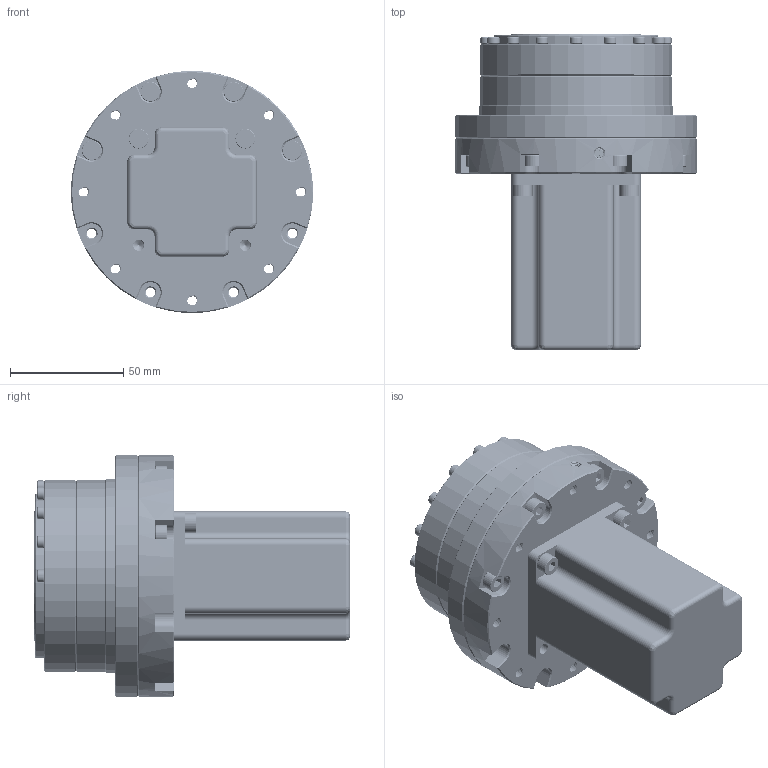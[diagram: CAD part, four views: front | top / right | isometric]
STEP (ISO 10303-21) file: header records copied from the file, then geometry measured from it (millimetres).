
FILE_DESCRIPTION(/* description */ (''),/* implementation_level */ '2;1');
FILE_NAME(/* name */ 'HBG25配57步进电机安装方案.stp',/* time_stamp */ '2022-09-21T09:41:49+08:00',/* author */ (''),/* organization */ (''),/* preprocessor_version */ 'ST-DEVELOPER v16',/* originating_system */ 'SIEMENS PLM Software NX 10.0',/* authorisation */ '');
FILE_SCHEMA (('CONFIG_CONTROL_DESIGN'));
Products named in the file (1): HBG25配57步进电机安装方案
Bounding box: 107 x 139.82 x 107 mm (x, y, z)
Volume: 407441.9 mm3; surface area: 175663.6 mm2
Topology: 47 solids, 48 shells, 1735 faces, 4472 edges, 2892 vertices
Faces by surface type: plane 567, cylinder 500, cone 380, bspline 221, extrusion 40, torus 15, sphere 12
Full cylindrical faces by diameter (mm): 3.5 x16, 4.2 x8, 5 x48, 5.5 x25, 6 x70, 6.5 x16, 8 x1, 8.72 x6, 10.22 x5, 14 x1, 20 x3, 22 x1, 38.1 x2, 39 x1, 39.5 x1, 43.7 x1, 45.212 x1, 46.7 x1, 47.3 x1, 48.3 x1, 48.412 x2, 49.5 x1, 52 x1, 53.1 x1, 54 x1, 55 x1, 56 x1, 56.5 x1, 57 x1, 58 x1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
Entity records: 494543 total; most frequent: CARTESIAN_POINT 461375, ORIENTED_EDGE 6576, DIRECTION 5995, EDGE_CURVE 3288, AXIS2_PLACEMENT_3D 2433, VERTEX_POINT 2389, EDGE_LOOP 2321, ADVANCED_FACE 1573
